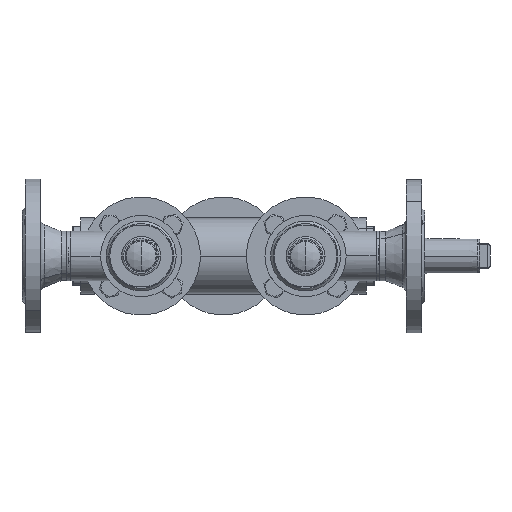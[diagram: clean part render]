
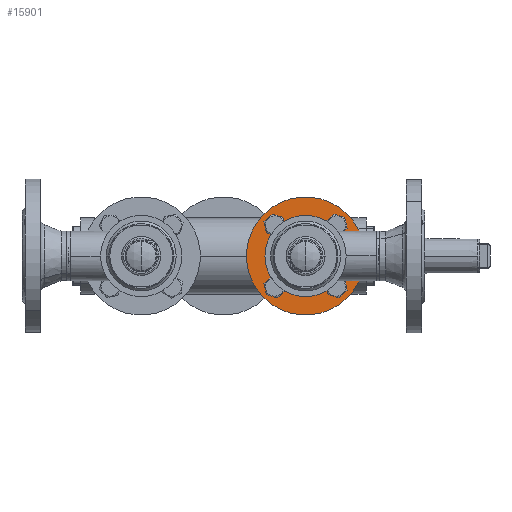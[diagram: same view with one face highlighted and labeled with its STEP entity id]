
A CAD part, left-side view. The second image highlights one B-rep face of the part: STEP entity #15901.
In plain terms, the highlighted planar face has unit normal (-1, 0, 0) as drawn and (0, 1, 0) by its records, which use the part's own axes.
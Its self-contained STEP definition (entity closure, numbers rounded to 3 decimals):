
#4 = EDGE_LOOP ( 'NONE', ( #41405, #39885 ) ) ;
#16704 = EDGE_CURVE ( 'NONE', #24004, #7125, #896, .T. ) ;
#33091 = EDGE_CURVE ( 'NONE', #27422, #29733, #27606, .T. ) ;
#33452 = CIRCLE ( 'NONE', #33453, 7. ) ;
#33453 = AXIS2_PLACEMENT_3D ( 'NONE', #33454, #33455, #33456 ) ;
#33454 = CARTESIAN_POINT ( 'NONE',  ( -42.5, 18., 0. ) ) ;
#33455 = DIRECTION ( 'NONE',  ( 0., 1., 0. ) ) ;
#33456 = DIRECTION ( 'NONE',  ( 1., 0., 0. ) ) ;
#712 = ORIENTED_EDGE ( 'NONE', *, *, #27894, .F. ) ;
#17256 = CARTESIAN_POINT ( 'NONE',  ( 7., 18., 42.5 ) ) ;
#896 = CIRCLE ( 'NONE', #897, 25.748 ) ;
#897 = AXIS2_PLACEMENT_3D ( 'NONE', #898, #899, #900 ) ;
#898 = CARTESIAN_POINT ( 'NONE',  ( 0., 18., 0. ) ) ;
#899 = DIRECTION ( 'NONE',  ( 0., 1., 0. ) ) ;
#900 = DIRECTION ( 'NONE',  ( -1., 0., 0. ) ) ;
#33854 = ORIENTED_EDGE ( 'NONE', *, *, #33091, .F. ) ;
#18330 = CARTESIAN_POINT ( 'NONE',  ( 25.748, 18., 0. ) ) ;
#2230 = EDGE_CURVE ( 'NONE', #27423, #29734, #9037, .T. ) ;
#35160 = EDGE_LOOP ( 'NONE', ( #33854, #32025 ) ) ;
#35371 = VERTEX_POINT ( 'NONE', #29313 ) ;
#35643 = EDGE_CURVE ( 'NONE', #38360, #35371, #29533, .T. ) ;
#35752 = EDGE_CURVE ( 'NONE', #35371, #38360, #29656, .T. ) ;
#3310 = ORIENTED_EDGE ( 'NONE', *, *, #2230, .F. ) ;
#36141 = ORIENTED_EDGE ( 'NONE', *, *, #35643, .T. ) ;
#36409 = CARTESIAN_POINT ( 'NONE',  ( 57.5, 18., 0. ) ) ;
#20063 = CARTESIAN_POINT ( 'NONE',  ( -7., 18., -42.5 ) ) ;
#20064 = CARTESIAN_POINT ( 'NONE',  ( 35.5, 18., 0. ) ) ;
#20484 = CIRCLE ( 'NONE', #20485, 7. ) ;
#20485 = AXIS2_PLACEMENT_3D ( 'NONE', #20486, #20487, #20488 ) ;
#20486 = CARTESIAN_POINT ( 'NONE',  ( 0., 18., -42.5 ) ) ;
#20487 = DIRECTION ( 'NONE',  ( 0., 1., 0. ) ) ;
#20488 = DIRECTION ( 'NONE',  ( 0., 0., 1. ) ) ;
#20489 = CIRCLE ( 'NONE', #20490, 7. ) ;
#20490 = AXIS2_PLACEMENT_3D ( 'NONE', #20491, #20492, #20493 ) ;
#20491 = CARTESIAN_POINT ( 'NONE',  ( 42.5, 18., 0. ) ) ;
#20492 = DIRECTION ( 'NONE',  ( 0., 1., 0. ) ) ;
#20493 = DIRECTION ( 'NONE',  ( -1., 0., 0. ) ) ;
#36899 = VERTEX_POINT ( 'NONE', #32736 ) ;
#4705 = EDGE_LOOP ( 'NONE', ( #3310, #712 ) ) ;
#37552 = EDGE_CURVE ( 'NONE', #40642, #36899, #33452, .T. ) ;
#37664 = ORIENTED_EDGE ( 'NONE', *, *, #35752, .T. ) ;
#5170 = ORIENTED_EDGE ( 'NONE', *, *, #23769, .F. ) ;
#38360 = VERTEX_POINT ( 'NONE', #36409 ) ;
#6099 = VERTEX_POINT ( 'NONE', #17256 ) ;
#39179 = EDGE_LOOP ( 'NONE', ( #37664, #36141 ) ) ;
#23263 = CIRCLE ( 'NONE', #23264, 7. ) ;
#23264 = AXIS2_PLACEMENT_3D ( 'NONE', #23265, #23266, #23267 ) ;
#23265 = CARTESIAN_POINT ( 'NONE',  ( -42.5, 18., 0. ) ) ;
#23266 = DIRECTION ( 'NONE',  ( 0., 1., 0. ) ) ;
#23267 = DIRECTION ( 'NONE',  ( 1., 0., 0. ) ) ;
#23308 = CARTESIAN_POINT ( 'NONE',  ( 7., 18., -42.5 ) ) ;
#23309 = CARTESIAN_POINT ( 'NONE',  ( 49.5, 18., 0. ) ) ;
#23315 = VERTEX_POINT ( 'NONE', #11663 ) ;
#39885 = ORIENTED_EDGE ( 'NONE', *, *, #24458, .F. ) ;
#7125 = VERTEX_POINT ( 'NONE', #18330 ) ;
#23769 = EDGE_CURVE ( 'NONE', #6099, #23315, #12158, .T. ) ;
#40154 = CARTESIAN_POINT ( 'NONE',  ( -35.5, 18., 0. ) ) ;
#24004 = VERTEX_POINT ( 'NONE', #12469 ) ;
#40642 = VERTEX_POINT ( 'NONE', #40154 ) ;
#24458 = EDGE_CURVE ( 'NONE', #7125, #24004, #13965, .T. ) ;
#41405 = ORIENTED_EDGE ( 'NONE', *, *, #16704, .F. ) ;
#9037 = CIRCLE ( 'NONE', #9038, 7. ) ;
#9038 = AXIS2_PLACEMENT_3D ( 'NONE', #9039, #9040, #9041 ) ;
#9039 = CARTESIAN_POINT ( 'NONE',  ( 42.5, 18., 0. ) ) ;
#9040 = DIRECTION ( 'NONE',  ( 0., 1., 0. ) ) ;
#9041 = DIRECTION ( 'NONE',  ( -1., 0., 0. ) ) ;
#25946 = EDGE_CURVE ( 'NONE', #23315, #6099, #15586, .T. ) ;
#26707 = ORIENTED_EDGE ( 'NONE', *, *, #25946, .F. ) ;
#27422 = VERTEX_POINT ( 'NONE', #20063 ) ;
#27423 = VERTEX_POINT ( 'NONE', #20064 ) ;
#27606 = CIRCLE ( 'NONE', #27607, 7. ) ;
#27607 = AXIS2_PLACEMENT_3D ( 'NONE', #27608, #27609, #27610 ) ;
#27608 = CARTESIAN_POINT ( 'NONE',  ( 0., 18., -42.5 ) ) ;
#27609 = DIRECTION ( 'NONE',  ( 0., 1., 0. ) ) ;
#27610 = DIRECTION ( 'NONE',  ( 0., 0., 1. ) ) ;
#27893 = EDGE_CURVE ( 'NONE', #29733, #27422, #20484, .T. ) ;
#27894 = EDGE_CURVE ( 'NONE', #29734, #27423, #20489, .T. ) ;
#11663 = CARTESIAN_POINT ( 'NONE',  ( -7., 18., 42.5 ) ) ;
#28127 = EDGE_LOOP ( 'NONE', ( #26707, #5170 ) ) ;
#12158 = CIRCLE ( 'NONE', #12159, 7. ) ;
#12159 = AXIS2_PLACEMENT_3D ( 'NONE', #12160, #12161, #12162 ) ;
#12160 = CARTESIAN_POINT ( 'NONE',  ( 0., 18., 42.5 ) ) ;
#12161 = DIRECTION ( 'NONE',  ( 0., 1., 0. ) ) ;
#12162 = DIRECTION ( 'NONE',  ( 0., 0., -1. ) ) ;
#28623 = ORIENTED_EDGE ( 'NONE', *, *, #37552, .F. ) ;
#12469 = CARTESIAN_POINT ( 'NONE',  ( -25.748, 18., 0. ) ) ;
#29313 = CARTESIAN_POINT ( 'NONE',  ( -57.5, 18., 0. ) ) ;
#29533 = CIRCLE ( 'NONE', #29534, 57.5 ) ;
#29534 = AXIS2_PLACEMENT_3D ( 'NONE', #29535, #29536, #29537 ) ;
#29535 = CARTESIAN_POINT ( 'NONE',  ( 0., 18., 0. ) ) ;
#29536 = DIRECTION ( 'NONE',  ( 0., 1., 0. ) ) ;
#29537 = DIRECTION ( 'NONE',  ( -1., 0., 0. ) ) ;
#29656 = CIRCLE ( 'NONE', #29657, 57.5 ) ;
#29657 = AXIS2_PLACEMENT_3D ( 'NONE', #29658, #29679, #29680 ) ;
#29658 = CARTESIAN_POINT ( 'NONE',  ( 0., 18., 0. ) ) ;
#29679 = DIRECTION ( 'NONE',  ( 0., 1., 0. ) ) ;
#29680 = DIRECTION ( 'NONE',  ( -1., 0., 0. ) ) ;
#29695 = EDGE_CURVE ( 'NONE', #36899, #40642, #23263, .T. ) ;
#29733 = VERTEX_POINT ( 'NONE', #23308 ) ;
#29734 = VERTEX_POINT ( 'NONE', #23309 ) ;
#13965 = CIRCLE ( 'NONE', #13966, 25.748 ) ;
#13966 = AXIS2_PLACEMENT_3D ( 'NONE', #13967, #13968, #13969 ) ;
#13967 = CARTESIAN_POINT ( 'NONE',  ( 0., 18., 0. ) ) ;
#13968 = DIRECTION ( 'NONE',  ( 0., 1., 0. ) ) ;
#13969 = DIRECTION ( 'NONE',  ( -1., 0., 0. ) ) ;
#30460 = ORIENTED_EDGE ( 'NONE', *, *, #29695, .F. ) ;
#30505 = FACE_BOUND ( 'NONE', #35160, .T. ) ;
#30506 = FACE_BOUND ( 'NONE', #31522, .T. ) ;
#30507 = FACE_BOUND ( 'NONE', #28127, .T. ) ;
#30508 = FACE_BOUND ( 'NONE', #4705, .T. ) ;
#30509 = FACE_BOUND ( 'NONE', #4, .T. ) ;
#30510 = FACE_OUTER_BOUND ( 'NONE', #39179, .T. ) ;
#30511 = PLANE ( 'NONE',  #30512 ) ;
#30512 = AXIS2_PLACEMENT_3D ( 'NONE', #30513, #30514, #30515 ) ;
#30513 = CARTESIAN_POINT ( 'NONE',  ( 57.5, 18., 0. ) ) ;
#30514 = DIRECTION ( 'NONE',  ( 0., -1., 0. ) ) ;
#30515 = DIRECTION ( 'NONE',  ( 1., 0., 0. ) ) ;
#31522 = EDGE_LOOP ( 'NONE', ( #30460, #28623 ) ) ;
#15586 = CIRCLE ( 'NONE', #15587, 7. ) ;
#15587 = AXIS2_PLACEMENT_3D ( 'NONE', #15588, #15589, #15590 ) ;
#15588 = CARTESIAN_POINT ( 'NONE',  ( 0., 18., 42.5 ) ) ;
#15589 = DIRECTION ( 'NONE',  ( 0., 1., 0. ) ) ;
#15590 = DIRECTION ( 'NONE',  ( 0., 0., -1. ) ) ;
#32025 = ORIENTED_EDGE ( 'NONE', *, *, #27893, .F. ) ;
#15901 = ADVANCED_FACE ( 'NONE', ( #30505, #30506, #30507, #30508, #30509, #30510 ), #30511, .F. ) ;
#32736 = CARTESIAN_POINT ( 'NONE',  ( -49.5, 18., 0. ) ) ;
